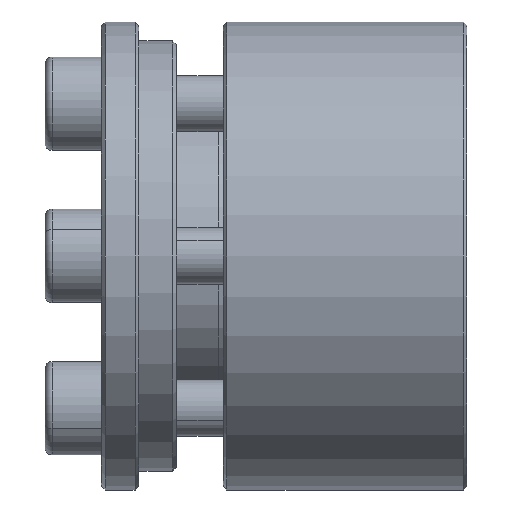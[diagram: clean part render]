
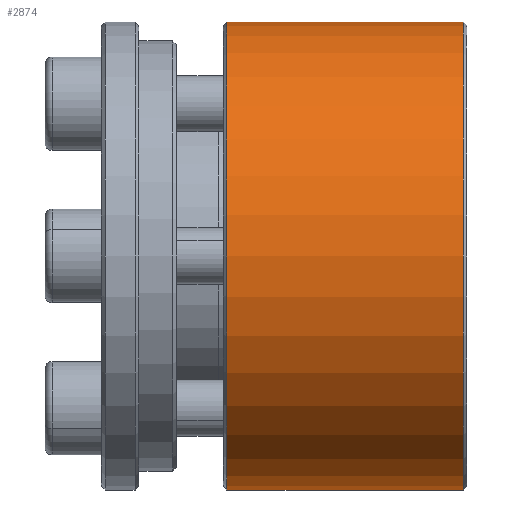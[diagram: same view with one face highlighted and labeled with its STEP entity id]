
A CAD part, front view. The second image highlights one B-rep face of the part: STEP entity #2874.
In plain terms, the highlighted cylindrical face has radius 24.96 mm (diameter 49.92 mm), a partial arc.
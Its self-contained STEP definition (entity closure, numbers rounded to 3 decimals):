
#39 = VERTEX_POINT ( 'NONE', #1811 ) ;
#535 = DIRECTION ( 'NONE',  ( -1., 0., 0. ) ) ;
#673 = CIRCLE ( 'NONE', #2287, 24.96 ) ;
#709 = EDGE_CURVE ( 'NONE', #3899, #2644, #6615, .T. ) ;
#783 = ORIENTED_EDGE ( 'NONE', *, *, #3053, .F. ) ;
#1112 = CYLINDRICAL_SURFACE ( 'NONE', #6993, 24.96 ) ;
#1177 = ORIENTED_EDGE ( 'NONE', *, *, #709, .T. ) ;
#1233 = AXIS2_PLACEMENT_3D ( 'NONE', #4770, #4315, #5341 ) ;
#1394 = VERTEX_POINT ( 'NONE', #2051 ) ;
#1405 = EDGE_CURVE ( 'NONE', #1394, #39, #673, .T. ) ;
#1471 = CARTESIAN_POINT ( 'NONE',  ( -67.166, 26.04, 0. ) ) ;
#1512 = DIRECTION ( 'NONE',  ( 0., 0., 1. ) ) ;
#1780 = CARTESIAN_POINT ( 'NONE',  ( -92.766, 26.04, -24.96 ) ) ;
#1811 = CARTESIAN_POINT ( 'NONE',  ( -67.166, 26.04, 24.96 ) ) ;
#2051 = CARTESIAN_POINT ( 'NONE',  ( -67.166, 26.04, -24.96 ) ) ;
#2131 = DIRECTION ( 'NONE',  ( -1., 0., 0. ) ) ;
#2204 = VECTOR ( 'NONE', #3556, 1000. ) ;
#2287 = AXIS2_PLACEMENT_3D ( 'NONE', #1471, #4262, #1512 ) ;
#2610 = LINE ( 'NONE', #3688, #5779 ) ;
#2644 = VERTEX_POINT ( 'NONE', #2927 ) ;
#2874 = ADVANCED_FACE ( 'NONE', ( #3286 ), #1112, .T. ) ;
#2927 = CARTESIAN_POINT ( 'NONE',  ( -92.366, 26.04, -24.96 ) ) ;
#3053 = EDGE_CURVE ( 'NONE', #1394, #2644, #5634, .T. ) ;
#3286 = FACE_OUTER_BOUND ( 'NONE', #4018, .T. ) ;
#3318 = CARTESIAN_POINT ( 'NONE',  ( -92.766, 26.04, 0. ) ) ;
#3556 = DIRECTION ( 'NONE',  ( -1., 0., 0. ) ) ;
#3688 = CARTESIAN_POINT ( 'NONE',  ( -92.766, 26.04, 24.96 ) ) ;
#3899 = VERTEX_POINT ( 'NONE', #4819 ) ;
#4018 = EDGE_LOOP ( 'NONE', ( #783, #5168, #6502, #1177 ) ) ;
#4262 = DIRECTION ( 'NONE',  ( -1., 0., 0. ) ) ;
#4315 = DIRECTION ( 'NONE',  ( 1., 0., 0. ) ) ;
#4770 = CARTESIAN_POINT ( 'NONE',  ( -92.366, 26.04, 0. ) ) ;
#4819 = CARTESIAN_POINT ( 'NONE',  ( -92.366, 26.04, 24.96 ) ) ;
#5168 = ORIENTED_EDGE ( 'NONE', *, *, #1405, .T. ) ;
#5341 = DIRECTION ( 'NONE',  ( 0., 0., -1. ) ) ;
#5634 = LINE ( 'NONE', #1780, #2204 ) ;
#5779 = VECTOR ( 'NONE', #2131, 1000. ) ;
#6099 = DIRECTION ( 'NONE',  ( 0., 0., 1. ) ) ;
#6502 = ORIENTED_EDGE ( 'NONE', *, *, #6809, .T. ) ;
#6615 = CIRCLE ( 'NONE', #1233, 24.96 ) ;
#6809 = EDGE_CURVE ( 'NONE', #39, #3899, #2610, .T. ) ;
#6993 = AXIS2_PLACEMENT_3D ( 'NONE', #3318, #535, #6099 ) ;
